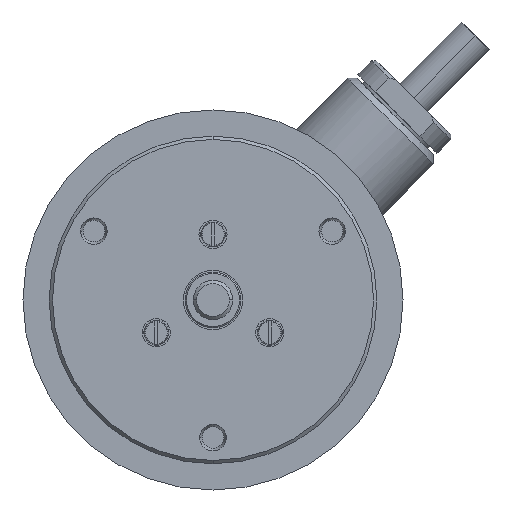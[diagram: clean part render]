
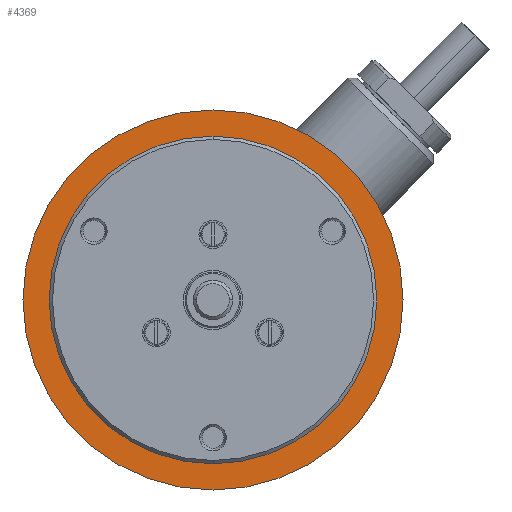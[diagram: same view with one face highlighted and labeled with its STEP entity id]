
A CAD part, left-side view. The second image highlights one B-rep face of the part: STEP entity #4369.
In plain terms, the highlighted planar face has unit normal (-1, 0, 0).
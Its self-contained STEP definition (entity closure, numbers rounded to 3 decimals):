
#312 = DIRECTION ( 'NONE',  ( 1., 0., 0. ) ) ;
#451 = ORIENTED_EDGE ( 'NONE', *, *, #5839, .F. ) ;
#689 = AXIS2_PLACEMENT_3D ( 'NONE', #2682, #7403, #3293 ) ;
#1467 = CIRCLE ( 'NONE', #1752, 25. ) ;
#1512 = VERTEX_POINT ( 'NONE', #4846 ) ;
#1752 = AXIS2_PLACEMENT_3D ( 'NONE', #2322, #7010, #2930 ) ;
#1880 = ORIENTED_EDGE ( 'NONE', *, *, #8158, .T. ) ;
#2322 = CARTESIAN_POINT ( 'NONE',  ( 15.866, 16.959, 18.637 ) ) ;
#2357 = CARTESIAN_POINT ( 'NONE',  ( 15.866, 16.959, -6.363 ) ) ;
#2682 = CARTESIAN_POINT ( 'NONE',  ( 15.866, 16.959, 18.637 ) ) ;
#2930 = DIRECTION ( 'NONE',  ( 0., 0., -1. ) ) ;
#2965 = DIRECTION ( 'NONE',  ( 0., 0., 1. ) ) ;
#3014 = FACE_OUTER_BOUND ( 'NONE', #4464, .T. ) ;
#3021 = FACE_BOUND ( 'NONE', #6779, .T. ) ;
#3293 = DIRECTION ( 'NONE',  ( 0., 0., -1. ) ) ;
#3301 = DIRECTION ( 'NONE',  ( 1., 0., 0. ) ) ;
#3499 = EDGE_CURVE ( 'NONE', #6351, #1512, #4473, .T. ) ;
#3549 = PLANE ( 'NONE',  #3858 ) ;
#3858 = AXIS2_PLACEMENT_3D ( 'NONE', #2357, #7052, #2965 ) ;
#4001 = CARTESIAN_POINT ( 'NONE',  ( 15.866, 16.959, 18.637 ) ) ;
#4369 = ADVANCED_FACE ( 'NONE', ( #3021, #3014 ), #3549, .T. ) ;
#4405 = CARTESIAN_POINT ( 'NONE',  ( 15.866, 16.959, -6.363 ) ) ;
#4464 = EDGE_LOOP ( 'NONE', ( #7640, #451 ) ) ;
#4473 = CIRCLE ( 'NONE', #5139, 25. ) ;
#4740 = DIRECTION ( 'NONE',  ( 0., 0., -1. ) ) ;
#4742 = CARTESIAN_POINT ( 'NONE',  ( 15.866, 16.959, 47.637 ) ) ;
#4793 = EDGE_CURVE ( 'NONE', #6277, #7904, #7262, .T. ) ;
#4846 = CARTESIAN_POINT ( 'NONE',  ( 15.866, 16.959, 43.637 ) ) ;
#5139 = AXIS2_PLACEMENT_3D ( 'NONE', #7414, #3301, #8074 ) ;
#5634 = CARTESIAN_POINT ( 'NONE',  ( 15.866, 16.959, -10.363 ) ) ;
#5839 = EDGE_CURVE ( 'NONE', #7904, #6277, #6343, .T. ) ;
#5958 = AXIS2_PLACEMENT_3D ( 'NONE', #4001, #312, #4740 ) ;
#6277 = VERTEX_POINT ( 'NONE', #5634 ) ;
#6343 = CIRCLE ( 'NONE', #5958, 29. ) ;
#6351 = VERTEX_POINT ( 'NONE', #4405 ) ;
#6779 = EDGE_LOOP ( 'NONE', ( #7106, #1880 ) ) ;
#7010 = DIRECTION ( 'NONE',  ( 1., 0., 0. ) ) ;
#7052 = DIRECTION ( 'NONE',  ( -1., 0., 0. ) ) ;
#7106 = ORIENTED_EDGE ( 'NONE', *, *, #3499, .T. ) ;
#7262 = CIRCLE ( 'NONE', #689, 29. ) ;
#7403 = DIRECTION ( 'NONE',  ( 1., 0., 0. ) ) ;
#7414 = CARTESIAN_POINT ( 'NONE',  ( 15.866, 16.959, 18.637 ) ) ;
#7640 = ORIENTED_EDGE ( 'NONE', *, *, #4793, .F. ) ;
#7904 = VERTEX_POINT ( 'NONE', #4742 ) ;
#8074 = DIRECTION ( 'NONE',  ( 0., 0., -1. ) ) ;
#8158 = EDGE_CURVE ( 'NONE', #1512, #6351, #1467, .T. ) ;
